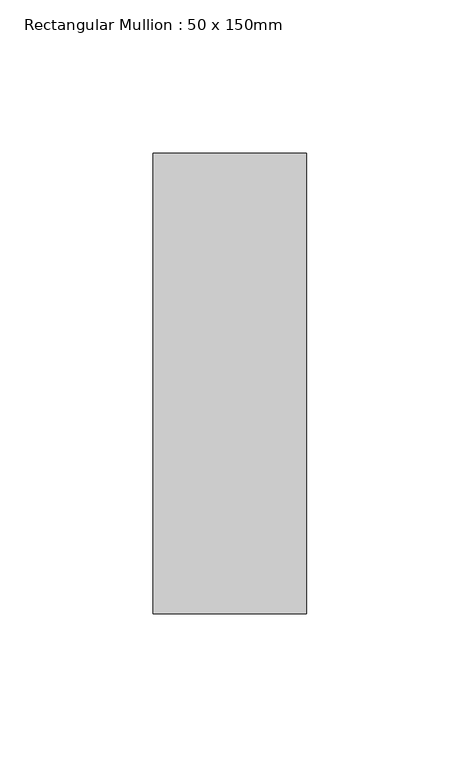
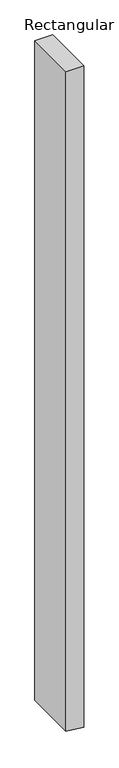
"""IFC4 building model written with IfcOpenShell, lengths in millimetres: member geometry, Rectangular Mullion : 50 x 150mm."""

from ifc_helpers import new_model, si_unit, frame, origin, place, context, project, spatial, polyline, outline, extrude, source, transform, mapped, element, save


def rectangular_mullion_50_x_150mm_ec0a8759(model_context):
    return source(origin(), model_context, "Body", "SweptSolid", [
        extrude(outline(polyline([(0.0, 25.0), (0.0, -25.0), (-1950.4702322, -25.0), (-1953.9503915, 5.6423937), (-1956.1488996, 25.0), (0.0, 25.0)])), frame((0.0, -75.0, 0.0), z_axis=(0.0, 1.0, 0.0), x_axis=(0.0, 0.0, 1.0)), (0.0, 0.0, 1.0), 150.0),
    ])


if __name__ == "__main__":
    model = new_model("IFC4")
    model_context = context("Model", 3, world=origin())
    ifc_project = project(units=[si_unit("LENGTHUNIT", "METRE", prefix="MILLI")], contexts=[model_context])
    site = spatial("IfcSite", under=ifc_project)
    building = spatial("IfcBuilding", under=site)
    placement = place(None, origin())
    rectangular_mullion_50_x_150mm_shape = rectangular_mullion_50_x_150mm_ec0a8759(model_context)
    element("IfcMember", 1, ObjectType="Rectangular Mullion : 50 x 150mm", at=placement, inside=building, context=model_context, shape_type="MappedRepresentation", body=[
        mapped(rectangular_mullion_50_x_150mm_shape, transform((0.0, 0.0, 0.0), x_axis=(1.0, 0.0, 0.0), y_axis=(0.0, 1.0, 0.0), z_axis=(0.0, 0.0, 1.0))),
    ])
    save(model, "model.ifc")
